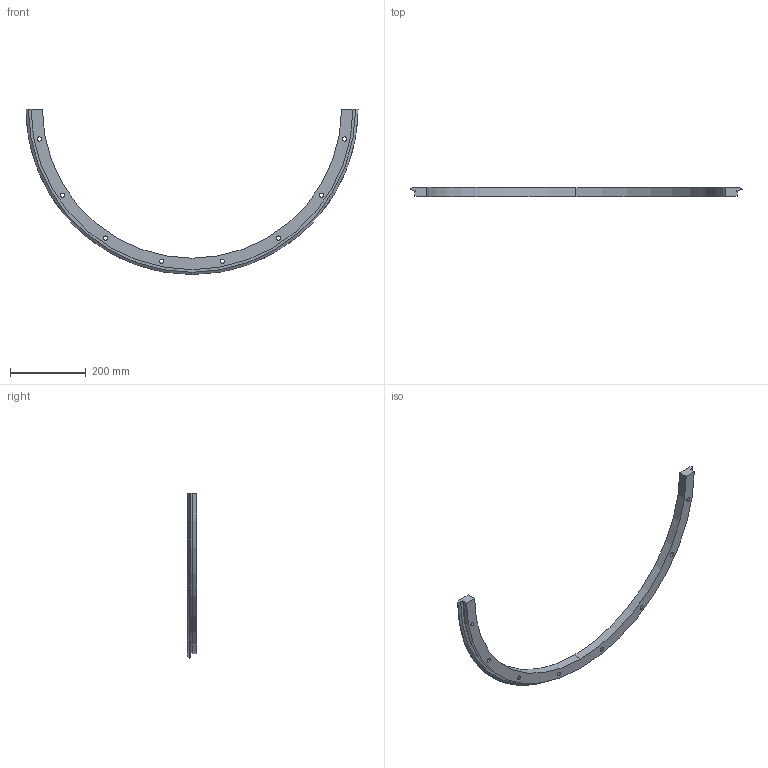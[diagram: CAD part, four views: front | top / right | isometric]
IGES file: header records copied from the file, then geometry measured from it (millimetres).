
Start section: 3D InterOp IGES (v. 2020 1.0.1), Spatial Corp. Copyright (c) 1999-2017.
Global section: file name: rel_874_r180.igs; native system: Spatial Corp.; preprocessor: 3D InterOp ACIS/IGES; author: TraceParts; organization: TraceParts S.A.; date: 20220624.102452; units: millimetre
Bounding box: 874.21 x 24 x 435.11 mm (x, y, z)
Surface area: 176002 mm2 (no closed solid volume)
Topology: 0 solids, 0 shells, 60 faces, 294 edges, 294 vertices
Faces by surface type: revolution 46, extrusion 14
